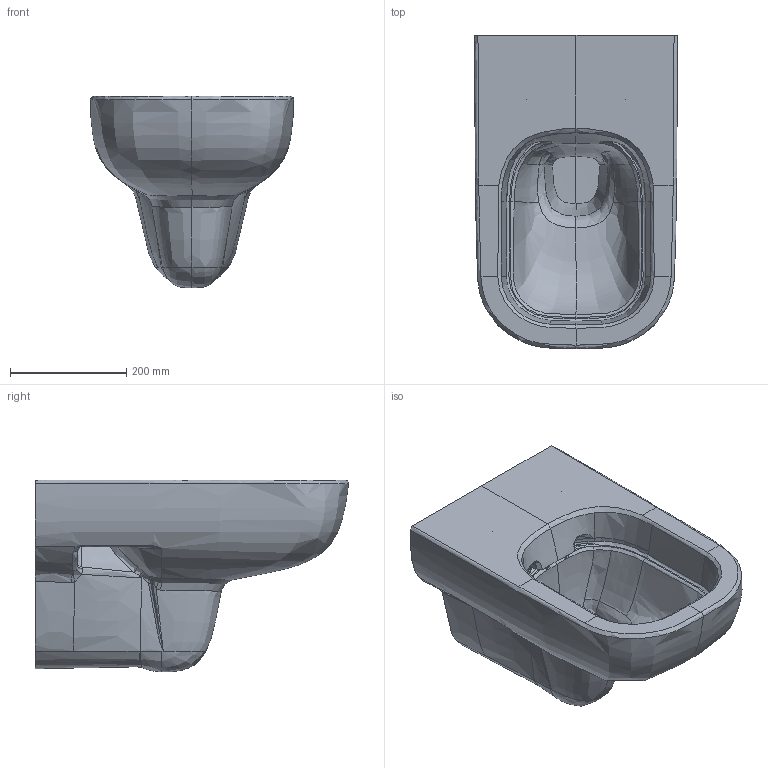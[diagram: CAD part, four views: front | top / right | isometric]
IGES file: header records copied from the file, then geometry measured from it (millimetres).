
Global section: file name: 500210; native system: Autodesk Inventor 2018; preprocessor: unknown; author: JANAN; date: 20200430.090359; units: millimetre
Bounding box: 350 x 540 x 330.64 mm (x, y, z)
Volume: 20879027.1 mm3; surface area: 810462.9 mm2
Topology: 1 solids, 1 shells, 268 faces, 707 edges, 433 vertices
Faces by surface type: bspline 268
